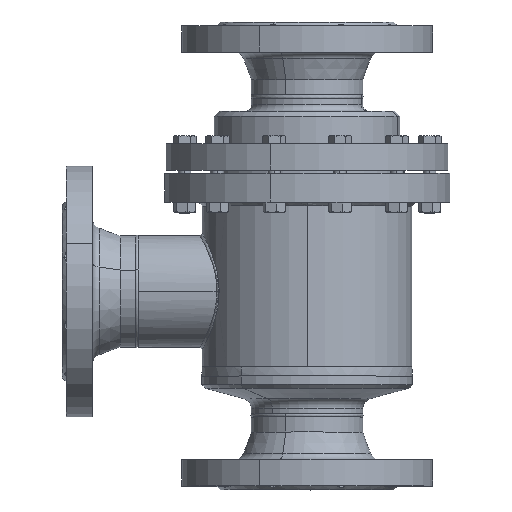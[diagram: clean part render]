
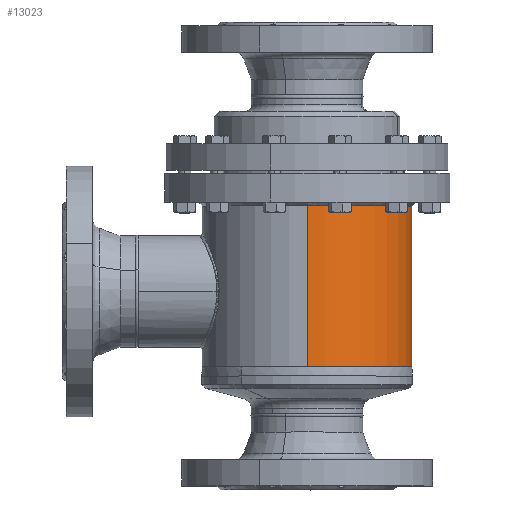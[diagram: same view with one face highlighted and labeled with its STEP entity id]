
A CAD part, top view. The second image highlights one B-rep face of the part: STEP entity #13023.
In plain terms, the highlighted cylindrical face has radius 83.5 mm (diameter 167 mm), a partial arc.
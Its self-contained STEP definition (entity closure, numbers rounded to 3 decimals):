
#18207 = CARTESIAN_POINT ( 'NONE',  ( 0., -56.922, -83.5 ) ) ;
#19214 = CARTESIAN_POINT ( 'NONE',  ( 0., -56.922, 83.5 ) ) ;
#19688 = CIRCLE ( 'NONE', #19689, 83.5 ) ;
#19689 = AXIS2_PLACEMENT_3D ( 'NONE', #19690, #19691, #19692 ) ;
#19690 = CARTESIAN_POINT ( 'NONE',  ( 0., -56.922, 0. ) ) ;
#19691 = DIRECTION ( 'NONE',  ( 0., 1., 0. ) ) ;
#19692 = DIRECTION ( 'NONE',  ( 0., 0., 1. ) ) ;
#19761 = LINE ( 'NONE', #19762, #19763 ) ;
#19762 = CARTESIAN_POINT ( 'NONE',  ( 0., 45.442, 83.5 ) ) ;
#19763 = VECTOR ( 'NONE', #19783, 1000. ) ;
#19783 = DIRECTION ( 'NONE',  ( 0., 1., 0. ) ) ;
#22452 = CARTESIAN_POINT ( 'NONE',  ( 0., 73.932, 83.5 ) ) ;
#23246 = FACE_OUTER_BOUND ( 'NONE', #12555, .T. ) ;
#23247 = CYLINDRICAL_SURFACE ( 'NONE', #23248, 83.5 ) ;
#23248 = AXIS2_PLACEMENT_3D ( 'NONE', #23249, #23250, #23251 ) ;
#23249 = CARTESIAN_POINT ( 'NONE',  ( 0., 45.442, 0. ) ) ;
#23250 = DIRECTION ( 'NONE',  ( 0., 1., 0. ) ) ;
#23251 = DIRECTION ( 'NONE',  ( 0., 0., 1. ) ) ;
#23282 = CIRCLE ( 'NONE', #23283, 83.5 ) ;
#23283 = AXIS2_PLACEMENT_3D ( 'NONE', #23284, #23285, #23286 ) ;
#23284 = CARTESIAN_POINT ( 'NONE',  ( 0., 73.932, 0. ) ) ;
#23285 = DIRECTION ( 'NONE',  ( 0., 1., 0. ) ) ;
#23286 = DIRECTION ( 'NONE',  ( 0., 0., 1. ) ) ;
#7666 = CARTESIAN_POINT ( 'NONE',  ( 0., 73.932, -83.5 ) ) ;
#8212 = LINE ( 'NONE', #8213, #8234 ) ;
#8213 = CARTESIAN_POINT ( 'NONE',  ( 0., 45.442, -83.5 ) ) ;
#8234 = VECTOR ( 'NONE', #8235, 1000. ) ;
#8235 = DIRECTION ( 'NONE',  ( 0., 1., 0. ) ) ;
#9997 = VERTEX_POINT ( 'NONE', #18207 ) ;
#10422 = VERTEX_POINT ( 'NONE', #19214 ) ;
#10853 = EDGE_CURVE ( 'NONE', #10422, #9997, #19688, .T. ) ;
#10960 = EDGE_CURVE ( 'NONE', #10422, #12669, #19761, .T. ) ;
#11566 = ORIENTED_EDGE ( 'NONE', *, *, #10853, .T. ) ;
#11671 = ORIENTED_EDGE ( 'NONE', *, *, #10960, .F. ) ;
#12555 = EDGE_LOOP ( 'NONE', ( #11566, #31335, #29500, #11671 ) ) ;
#12669 = VERTEX_POINT ( 'NONE', #22452 ) ;
#13023 = ADVANCED_FACE ( 'NONE', ( #23246 ), #23247, .T. ) ;
#13091 = EDGE_CURVE ( 'NONE', #12669, #30186, #23282, .T. ) ;
#29500 = ORIENTED_EDGE ( 'NONE', *, *, #13091, .F. ) ;
#30186 = VERTEX_POINT ( 'NONE', #7666 ) ;
#30617 = EDGE_CURVE ( 'NONE', #9997, #30186, #8212, .T. ) ;
#31335 = ORIENTED_EDGE ( 'NONE', *, *, #30617, .T. ) ;
